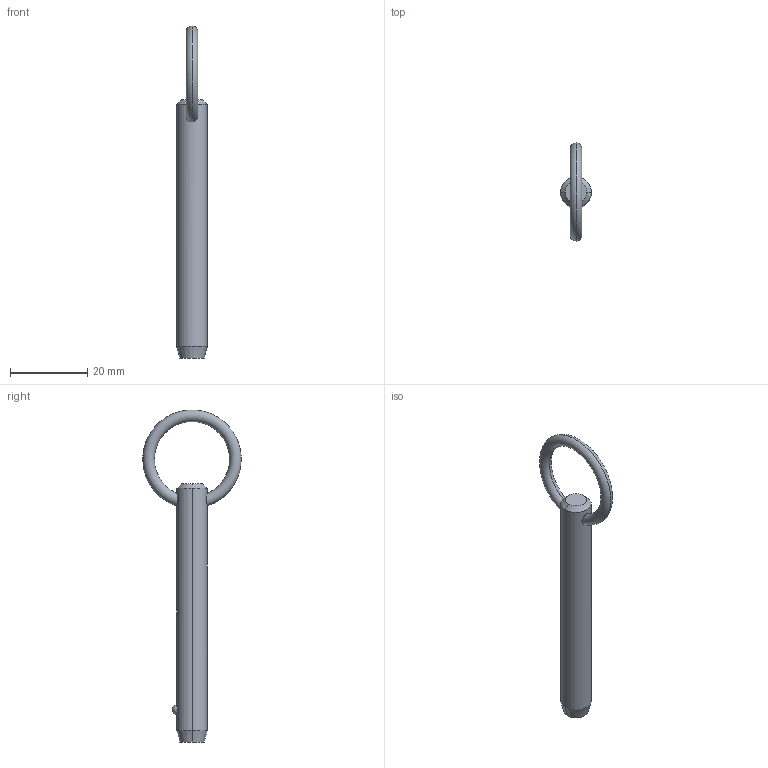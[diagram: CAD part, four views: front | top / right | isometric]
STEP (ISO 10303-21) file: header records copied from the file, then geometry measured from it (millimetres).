
FILE_DESCRIPTION (( 'STEP AP203' ), '1' );
FILE_NAME ('P1250.031-200.step', '2019-07-29T19:50:36', ( '' ), ( '' ), 'SwSTEP 2.0', 'SolidWorks 2017', '' );
FILE_SCHEMA (( 'CONFIG_CONTROL_DESIGN' ));
Length unit declared in the file: millimetre
Products named in the file (1): P1250.031-200
Bounding box: 7.93 x 25.36 x 85.7 mm (x, y, z)
Volume: 3693.3 mm3; surface area: 2296.3 mm2
Topology: 1 solids, 1 shells, 12 faces, 28 edges, 17 vertices
Faces by surface type: cone 4, torus 2, sphere 2, cylinder 2, plane 2
Entity records: 509 total; most frequent: CARTESIAN_POINT 176, DIRECTION 56, ORIENTED_EDGE 48, AXIS2_PLACEMENT_3D 25, EDGE_CURVE 24, EDGE_LOOP 15, VERTEX_POINT 15, CIRCLE 12
